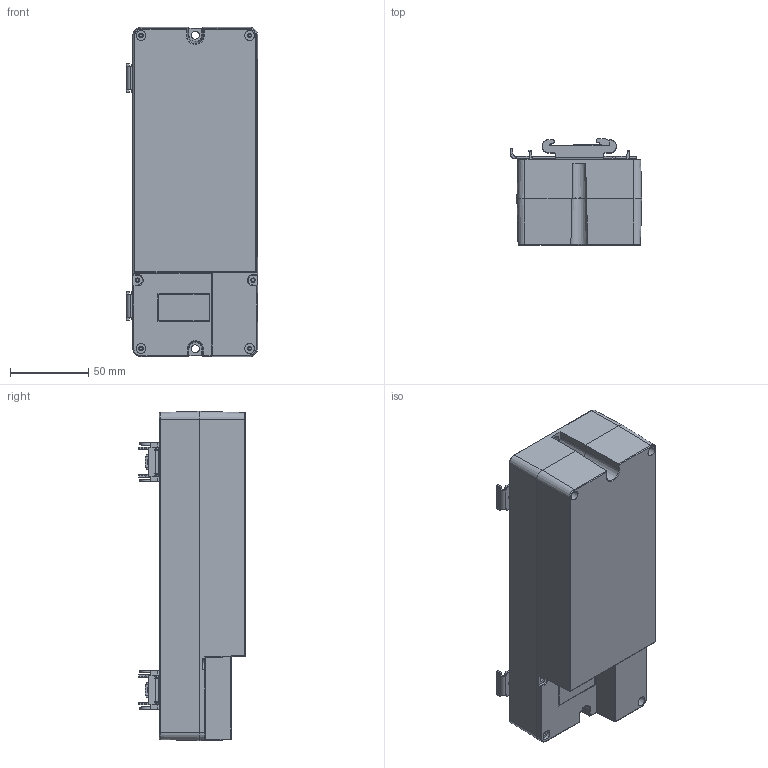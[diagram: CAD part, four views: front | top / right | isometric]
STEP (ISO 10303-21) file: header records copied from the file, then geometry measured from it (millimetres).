
FILE_DESCRIPTION((''),'2;1');
FILE_NAME('0000000ALL-DYD_ASM','2021-02-02T',('Administrator'),(''),'PRO/ENGINEER BY PARAMETRIC TECHNOLOGY CORPORATION, 2002180','PRO/ENGINEER BY PARAMETRIC TECHNOLOGY CORPORATION, 2002180','');
FILE_SCHEMA(('AUTOMOTIVE_DESIGN { 1 2 10303 214 0 1 1 1 }'));
Length unit declared in the file: millimetre
Products named in the file (7): TYD; DY; DY1; WJ; WJ1; ASM000WUJIN_ASM; 0000000ALL-DYD_ASM
Assembly tree (7 placements, depth 3):
  0000000ALL-DYD_ASM
    TYD
    DY
    DY1
    ASM000WUJIN_ASM  x2
      WJ
      WJ1
Bounding box: 84.22 x 68.1 x 211 mm (x, y, z)
Volume: 533436.8 mm3; surface area: 185178.6 mm2
Topology: 7 solids, 7 shells, 918 faces, 2527 edges, 1640 vertices
Faces by surface type: plane 503, cylinder 292, cone 62, sphere 23, torus 20, bspline 18
Entity records: 25991 total; most frequent: CARTESIAN_POINT 5612, ORIENTED_EDGE 3500, DIRECTION 3291, EDGE_CURVE 1750, PRESENTATION_STYLE_ASSIGNMENT 1225, STYLED_ITEM 1225, CURVE_STYLE 1222, VERTEX_POINT 1136
